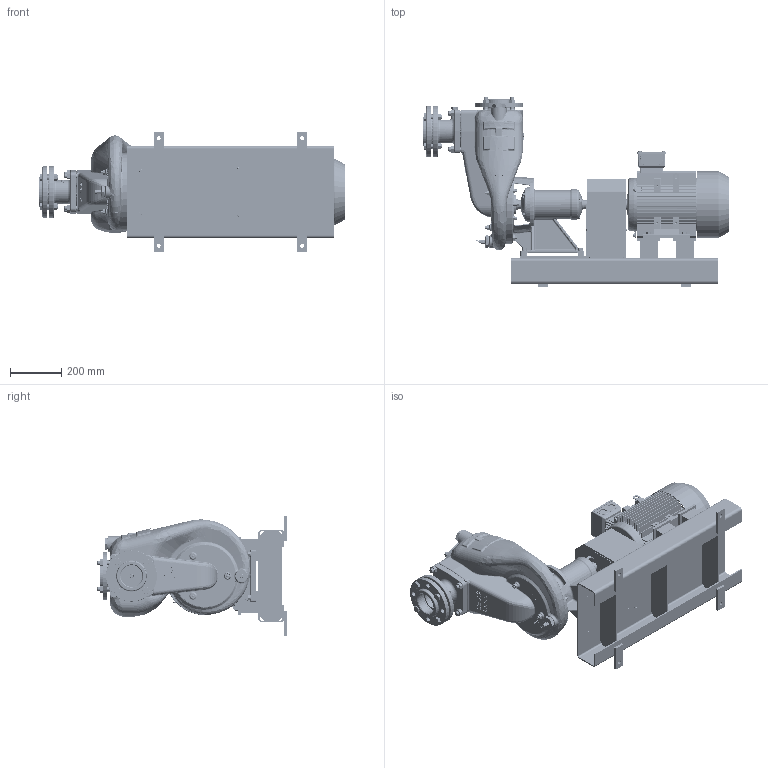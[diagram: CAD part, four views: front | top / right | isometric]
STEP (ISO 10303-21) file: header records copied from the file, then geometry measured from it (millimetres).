
FILE_DESCRIPTION((''),'2;1');
FILE_NAME('SA65-250_AD-9-H_ASM','2019-09-30T',('BRHE'),(''),'PRO/ENGINEER BY PARAMETRIC TECHNOLOGY CORPORATION, 2017170','PRO/ENGINEER BY PARAMETRIC TECHNOLOGY CORPORATION, 2017170','');
FILE_SCHEMA(('CONFIG_CONTROL_DESIGN'));
Products named in the file (90): 504070; 100723; 507761; 506622; 704013; 704436; 704062; 651425_ASM; 704190; 110900; 705392; 673452_ASM; 506965; 502040; 000581413; 700074; 000581414; 700075; 708677; 704037; 650402_ASM; 704187; 506962; 506431; 709543_AF2; 700230; 703840; 700221; 706913; 650181_ASM; 100259; 100734; 702294; 504990; 700018; 700041; 651423_ASM; 700963; 502970; 100733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
Assembly tree (185 placements, depth 5):
  SA65-250_AD-9-H_ASM
    650214_ASM
      650181_ASM
        504070
        651425_ASM
          100723
          507761
          506622
          704013
          704436
          704062
        704190  x2
        673452_ASM
          110900
          705392
        506965
        502040
        650402_ASM
          000581413
          700074
          000581414
          700075
          708677  x4
          704037  x8
        704187
        506962
        506431
        709543_AF2
        700230  x8
        703840  x4
        700221  x8
        706913  x8
      650212_ASM
        100259
        100734
        702294
        651423_ASM
          504990
          700018
          700041
        700963
        502970
        100733
        712097_AF0
        506008
        506357
        506338
        700304  x7
        700283  x2
      650200_ASM
        504081
        506108  x2
        507661
        507154  x3
        704018  x3
        706913  x3
    652489_ASM
      650263_ASM
        670246_AF0_ASM
          516155  x3
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Bounding box: 1195.7 x 738 x 470 mm (x, y, z)
Volume: 44482382.6 mm3; surface area: 6238081.5 mm2
Topology: 200 solids, 269 shells, 10600 faces, 27195 edges, 17232 vertices
Faces by surface type: plane 4686, bspline 2242, cylinder 1859, cone 1167, torus 481, sphere 165
Entity records: 371395 total; most frequent: CARTESIAN_POINT 154665, ORIENTED_EDGE 47131, DIRECTION 39993, EDGE_CURVE 23672, VERTEX_POINT 15237, VECTOR 14419, LINE 14419, AXIS2_PLACEMENT_3D 12787
